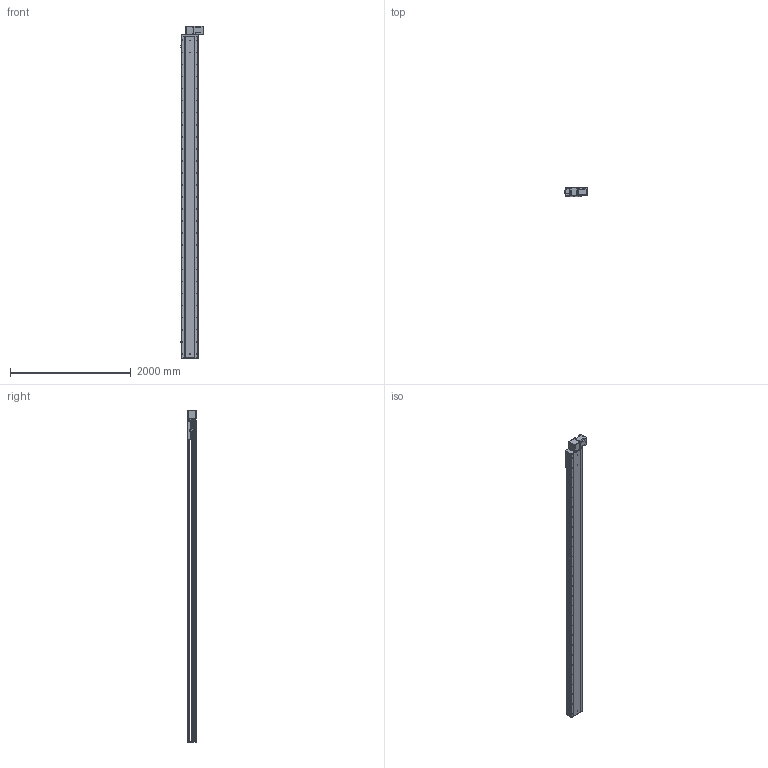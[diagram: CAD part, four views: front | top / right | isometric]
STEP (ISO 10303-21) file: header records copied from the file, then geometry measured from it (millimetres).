
FILE_DESCRIPTION (( 'STEP AP214' ), '1' );
FILE_NAME ('RTB28S-XX-4900-BL-M100-XX-C4.STEP', '2025-12-22T02:49:08', ( '' ), ( '' ), 'SwSTEP 2.0', 'SolidWorks 2018', '' );
FILE_SCHEMA (( 'AUTOMOTIVE_DESIGN' ));
Length unit declared in the file: millimetre
Products named in the file (4): RTB28S-GY-008^RTB28S-XX-XX-BL-M100-XX-C4; RTB28S-XX-4900-BL-M100-XX-C4; RTB28S-GY-004^RTB28S-XX-XX-BL-M100-XX-C4; RTB28S-GY-011^RTB28S-XX-XX-BL-M100-XX-C4
Assembly tree (3 placements, depth 2):
  RTB28S-XX-4900-BL-M100-XX-C4
    RTB28S-GY-011^RTB28S-XX-XX-BL-M100-XX-C4
    RTB28S-GY-004^RTB28S-XX-XX-BL-M100-XX-C4
    RTB28S-GY-008^RTB28S-XX-XX-BL-M100-XX-C4
Bounding box: 380.7 x 145 x 5507 mm (x, y, z)
Volume: 91038140.3 mm3; surface area: 8402233.7 mm2
Topology: 3 solids, 4 shells, 978 faces, 2658 edges, 1708 vertices
Faces by surface type: cylinder 511, plane 383, cone 80, torus 4
Entity records: 38747 total; most frequent: CARTESIAN_POINT 7852, DIRECTION 5676, ORIENTED_EDGE 5252, EDGE_CURVE 2626, AXIS2_PLACEMENT_3D 2128, VERTEX_POINT 1708, VECTOR 1420, LINE 1420
